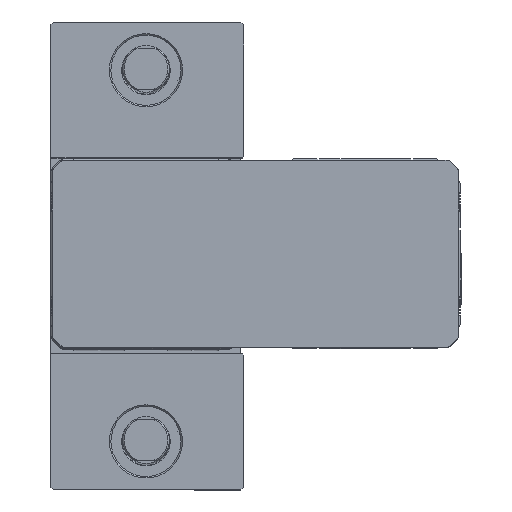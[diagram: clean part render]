
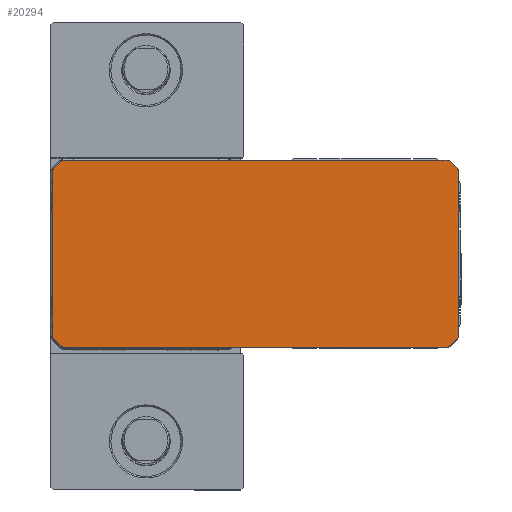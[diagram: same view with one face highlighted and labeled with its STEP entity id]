
A CAD part, top view. The second image highlights one B-rep face of the part: STEP entity #20294.
In plain terms, the highlighted planar face has unit normal (0, 0, 1).
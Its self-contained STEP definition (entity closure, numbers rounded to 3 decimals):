
#190 = DIRECTION ( 'NONE',  ( 0., 0., 1. ) ) ;
#234 = CIRCLE ( 'NONE', #4303, 1.5 ) ;
#927 = EDGE_CURVE ( 'NONE', #6355, #3636, #15119, .T. ) ;
#1331 = CARTESIAN_POINT ( 'NONE',  ( -31.561, 29.061, 444. ) ) ;
#1734 = CARTESIAN_POINT ( 'NONE',  ( 107., -28., 444. ) ) ;
#1833 = DIRECTION ( 'NONE',  ( 1., 0., 0. ) ) ;
#1853 = ORIENTED_EDGE ( 'NONE', *, *, #44608, .T. ) ;
#2231 = VERTEX_POINT ( 'NONE', #19004 ) ;
#3114 = VERTEX_POINT ( 'NONE', #7608 ) ;
#3430 = ORIENTED_EDGE ( 'NONE', *, *, #31408, .T. ) ;
#3619 = LINE ( 'NONE', #24115, #31556 ) ;
#3628 = CARTESIAN_POINT ( 'NONE',  ( -29.061, 31.561, 444. ) ) ;
#3636 = VERTEX_POINT ( 'NONE', #5426 ) ;
#3687 = VECTOR ( 'NONE', #14824, 1000. ) ;
#4303 = AXIS2_PLACEMENT_3D ( 'NONE', #38821, #17891, #42315 ) ;
#4426 = CARTESIAN_POINT ( 'NONE',  ( 107., 28., 444. ) ) ;
#4716 = VECTOR ( 'NONE', #5235, 1000. ) ;
#4760 = AXIS2_PLACEMENT_3D ( 'NONE', #39137, #18224, #42666 ) ;
#4852 = CIRCLE ( 'NONE', #4760, 1.5 ) ;
#4937 = CIRCLE ( 'NONE', #27027, 1.5 ) ;
#5235 = DIRECTION ( 'NONE',  ( 0., 1., 0. ) ) ;
#5326 = ORIENTED_EDGE ( 'NONE', *, *, #22947, .T. ) ;
#5426 = CARTESIAN_POINT ( 'NONE',  ( -28., 32., 444. ) ) ;
#5633 = EDGE_CURVE ( 'NONE', #31235, #6355, #8143, .T. ) ;
#5810 = VECTOR ( 'NONE', #33425, 1000. ) ;
#5949 = CARTESIAN_POINT ( 'NONE',  ( 105.5, 28., 444. ) ) ;
#5973 = VERTEX_POINT ( 'NONE', #27226 ) ;
#6008 = VERTEX_POINT ( 'NONE', #6432 ) ;
#6355 = VERTEX_POINT ( 'NONE', #16977 ) ;
#6432 = CARTESIAN_POINT ( 'NONE',  ( 106.561, 29.061, 444. ) ) ;
#7119 = EDGE_CURVE ( 'NONE', #2231, #29792, #33106, .T. ) ;
#7564 = CARTESIAN_POINT ( 'NONE',  ( 104.061, 31.561, 444. ) ) ;
#7608 = CARTESIAN_POINT ( 'NONE',  ( -28., -32., 444. ) ) ;
#7610 = ORIENTED_EDGE ( 'NONE', *, *, #7119, .T. ) ;
#8143 = CIRCLE ( 'NONE', #20819, 1.5 ) ;
#8347 = CIRCLE ( 'NONE', #32027, 1.5 ) ;
#8647 = LINE ( 'NONE', #14346, #26153 ) ;
#9179 = CARTESIAN_POINT ( 'NONE',  ( -30.5, -28., 444. ) ) ;
#9462 = DIRECTION ( 'NONE',  ( 1., 0., 0. ) ) ;
#9772 = VERTEX_POINT ( 'NONE', #21842 ) ;
#10183 = ORIENTED_EDGE ( 'NONE', *, *, #5633, .T. ) ;
#10478 = VERTEX_POINT ( 'NONE', #1734 ) ;
#11011 = LINE ( 'NONE', #32232, #44933 ) ;
#11130 = VERTEX_POINT ( 'NONE', #29716 ) ;
#12147 = AXIS2_PLACEMENT_3D ( 'NONE', #19047, #43482, #22557 ) ;
#12439 = CARTESIAN_POINT ( 'NONE',  ( 104.061, -31.561, 444. ) ) ;
#12616 = FACE_OUTER_BOUND ( 'NONE', #41282, .T. ) ;
#12695 = DIRECTION ( 'NONE',  ( 1., 0., 0. ) ) ;
#12822 = ORIENTED_EDGE ( 'NONE', *, *, #25866, .T. ) ;
#13058 = LINE ( 'NONE', #35706, #3687 ) ;
#14346 = CARTESIAN_POINT ( 'NONE',  ( -28., -32., 444. ) ) ;
#14824 = DIRECTION ( 'NONE',  ( 0.707, -0.707, 0. ) ) ;
#15119 = LINE ( 'NONE', #40278, #5810 ) ;
#15983 = ORIENTED_EDGE ( 'NONE', *, *, #19722, .T. ) ;
#16542 = VECTOR ( 'NONE', #28278, 1000. ) ;
#16698 = CARTESIAN_POINT ( 'NONE',  ( 104.061, -31.561, 444. ) ) ;
#16756 = ORIENTED_EDGE ( 'NONE', *, *, #43122, .T. ) ;
#16977 = CARTESIAN_POINT ( 'NONE',  ( 103., 32., 444. ) ) ;
#17190 = ORIENTED_EDGE ( 'NONE', *, *, #33774, .T. ) ;
#17891 = DIRECTION ( 'NONE',  ( 0., 0., 1. ) ) ;
#18224 = DIRECTION ( 'NONE',  ( 0., 0., 1. ) ) ;
#18818 = ORIENTED_EDGE ( 'NONE', *, *, #28198, .T. ) ;
#19004 = CARTESIAN_POINT ( 'NONE',  ( 103., -32., 444. ) ) ;
#19047 = CARTESIAN_POINT ( 'NONE',  ( -28., 30.5, 444. ) ) ;
#19481 = CARTESIAN_POINT ( 'NONE',  ( 103., 30.5, 444. ) ) ;
#19722 = EDGE_CURVE ( 'NONE', #6008, #31235, #11011, .T. ) ;
#19810 = VECTOR ( 'NONE', #43911, 1000. ) ;
#20294 = ADVANCED_FACE ( 'NONE', ( #12616 ), #26600, .T. ) ;
#20819 = AXIS2_PLACEMENT_3D ( 'NONE', #19481, #43918, #23019 ) ;
#20885 = ORIENTED_EDGE ( 'NONE', *, *, #24377, .T. ) ;
#20954 = DIRECTION ( 'NONE',  ( 0., 0., 1. ) ) ;
#21194 = CARTESIAN_POINT ( 'NONE',  ( 103., -30.5, 444. ) ) ;
#21642 = AXIS2_PLACEMENT_3D ( 'NONE', #9179, #33617, #12695 ) ;
#21842 = CARTESIAN_POINT ( 'NONE',  ( -32., -28., 444. ) ) ;
#22121 = VERTEX_POINT ( 'NONE', #27803 ) ;
#22557 = DIRECTION ( 'NONE',  ( 1., 0., 0. ) ) ;
#22684 = CARTESIAN_POINT ( 'NONE',  ( 107., -28., 444. ) ) ;
#22811 = DIRECTION ( 'NONE',  ( 0., 0., 1. ) ) ;
#22947 = EDGE_CURVE ( 'NONE', #38688, #9772, #3619, .T. ) ;
#23019 = DIRECTION ( 'NONE',  ( 1., 0., 0. ) ) ;
#24115 = CARTESIAN_POINT ( 'NONE',  ( -32., 28., 444. ) ) ;
#24377 = EDGE_CURVE ( 'NONE', #39318, #6008, #4937, .T. ) ;
#24693 = DIRECTION ( 'NONE',  ( 1., 0., 0. ) ) ;
#25104 = CIRCLE ( 'NONE', #27144, 1.5 ) ;
#25251 = EDGE_CURVE ( 'NONE', #38109, #38688, #4852, .T. ) ;
#25813 = LINE ( 'NONE', #3628, #16542 ) ;
#25866 = EDGE_CURVE ( 'NONE', #3114, #2231, #8647, .T. ) ;
#26153 = VECTOR ( 'NONE', #38777, 1000. ) ;
#26600 = PLANE ( 'NONE',  #21642 ) ;
#27027 = AXIS2_PLACEMENT_3D ( 'NONE', #5949, #30409, #9462 ) ;
#27144 = AXIS2_PLACEMENT_3D ( 'NONE', #43732, #22811, #1833 ) ;
#27226 = CARTESIAN_POINT ( 'NONE',  ( -29.061, -31.561, 444. ) ) ;
#27323 = AXIS2_PLACEMENT_3D ( 'NONE', #21194, #190, #24693 ) ;
#27803 = CARTESIAN_POINT ( 'NONE',  ( -29.061, 31.561, 444. ) ) ;
#28198 = EDGE_CURVE ( 'NONE', #5973, #3114, #234, .T. ) ;
#28278 = DIRECTION ( 'NONE',  ( -0.707, -0.707, 0. ) ) ;
#29716 = CARTESIAN_POINT ( 'NONE',  ( -31.561, -29.061, 444. ) ) ;
#29792 = VERTEX_POINT ( 'NONE', #16698 ) ;
#29969 = EDGE_CURVE ( 'NONE', #22121, #38109, #25813, .T. ) ;
#30409 = DIRECTION ( 'NONE',  ( 0., 0., 1. ) ) ;
#31235 = VERTEX_POINT ( 'NONE', #7564 ) ;
#31408 = EDGE_CURVE ( 'NONE', #10478, #39318, #32626, .T. ) ;
#31556 = VECTOR ( 'NONE', #38159, 1000. ) ;
#32027 = AXIS2_PLACEMENT_3D ( 'NONE', #41850, #20954, #45398 ) ;
#32232 = CARTESIAN_POINT ( 'NONE',  ( 106.561, 29.061, 444. ) ) ;
#32626 = LINE ( 'NONE', #22684, #4716 ) ;
#33106 = CIRCLE ( 'NONE', #27323, 1.5 ) ;
#33425 = DIRECTION ( 'NONE',  ( -1., 0., 0. ) ) ;
#33445 = CARTESIAN_POINT ( 'NONE',  ( 106.561, -29.061, 444. ) ) ;
#33617 = DIRECTION ( 'NONE',  ( 0., 0., 1. ) ) ;
#33774 = EDGE_CURVE ( 'NONE', #40024, #10478, #8347, .T. ) ;
#34604 = EDGE_CURVE ( 'NONE', #3636, #22121, #44375, .T. ) ;
#35706 = CARTESIAN_POINT ( 'NONE',  ( -31.561, -29.061, 444. ) ) ;
#35709 = DIRECTION ( 'NONE',  ( -0.707, 0.707, 0. ) ) ;
#38109 = VERTEX_POINT ( 'NONE', #1331 ) ;
#38159 = DIRECTION ( 'NONE',  ( 0., -1., 0. ) ) ;
#38364 = LINE ( 'NONE', #12439, #19810 ) ;
#38593 = ORIENTED_EDGE ( 'NONE', *, *, #42221, .T. ) ;
#38688 = VERTEX_POINT ( 'NONE', #43177 ) ;
#38777 = DIRECTION ( 'NONE',  ( 1., 0., 0. ) ) ;
#38821 = CARTESIAN_POINT ( 'NONE',  ( -28., -30.5, 444. ) ) ;
#39137 = CARTESIAN_POINT ( 'NONE',  ( -30.5, 28., 444. ) ) ;
#39318 = VERTEX_POINT ( 'NONE', #4426 ) ;
#40024 = VERTEX_POINT ( 'NONE', #33445 ) ;
#40278 = CARTESIAN_POINT ( 'NONE',  ( 103., 32., 444. ) ) ;
#40378 = ORIENTED_EDGE ( 'NONE', *, *, #29969, .T. ) ;
#40971 = ORIENTED_EDGE ( 'NONE', *, *, #34604, .T. ) ;
#41282 = EDGE_LOOP ( 'NONE', ( #1853, #38593, #18818, #12822, #7610, #16756, #17190, #3430, #20885, #15983, #10183, #44156, #40971, #40378, #44053, #5326 ) ) ;
#41850 = CARTESIAN_POINT ( 'NONE',  ( 105.5, -28., 444. ) ) ;
#42221 = EDGE_CURVE ( 'NONE', #11130, #5973, #13058, .T. ) ;
#42315 = DIRECTION ( 'NONE',  ( 1., 0., 0. ) ) ;
#42666 = DIRECTION ( 'NONE',  ( 1., 0., 0. ) ) ;
#43122 = EDGE_CURVE ( 'NONE', #29792, #40024, #38364, .T. ) ;
#43177 = CARTESIAN_POINT ( 'NONE',  ( -32., 28., 444. ) ) ;
#43482 = DIRECTION ( 'NONE',  ( 0., 0., 1. ) ) ;
#43732 = CARTESIAN_POINT ( 'NONE',  ( -30.5, -28., 444. ) ) ;
#43911 = DIRECTION ( 'NONE',  ( 0.707, 0.707, 0. ) ) ;
#43918 = DIRECTION ( 'NONE',  ( 0., 0., 1. ) ) ;
#44053 = ORIENTED_EDGE ( 'NONE', *, *, #25251, .T. ) ;
#44156 = ORIENTED_EDGE ( 'NONE', *, *, #927, .T. ) ;
#44375 = CIRCLE ( 'NONE', #12147, 1.5 ) ;
#44608 = EDGE_CURVE ( 'NONE', #9772, #11130, #25104, .T. ) ;
#44933 = VECTOR ( 'NONE', #35709, 1000. ) ;
#45398 = DIRECTION ( 'NONE',  ( 1., 0., 0. ) ) ;
